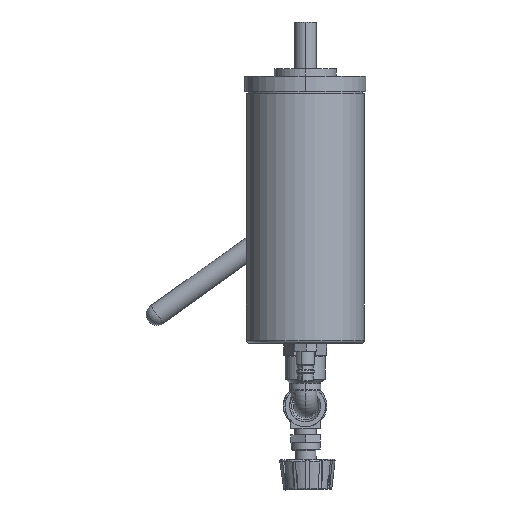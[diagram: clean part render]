
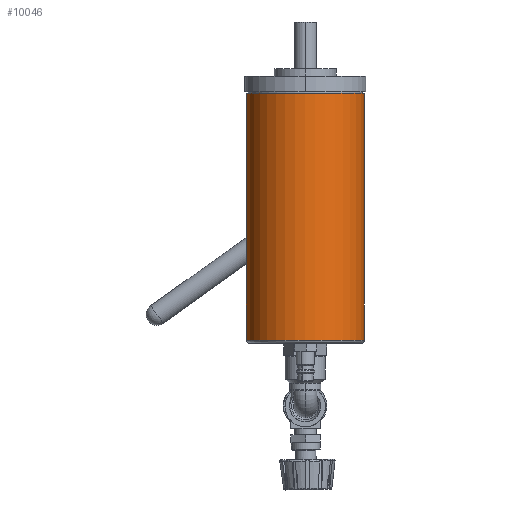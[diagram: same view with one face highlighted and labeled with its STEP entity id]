
A CAD part, left-side view. The second image highlights one B-rep face of the part: STEP entity #10046.
In plain terms, the highlighted cylindrical face has radius 38 mm (diameter 76 mm), a partial arc.
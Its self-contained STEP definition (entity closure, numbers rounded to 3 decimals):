
#388 = VERTEX_POINT ( 'NONE', #15663 ) ;
#506 = CARTESIAN_POINT ( 'NONE',  ( 0., 163., -38. ) ) ;
#519 = VERTEX_POINT ( 'NONE', #1549 ) ;
#753 = DIRECTION ( 'NONE',  ( 0., 0., 1. ) ) ;
#964 = CARTESIAN_POINT ( 'NONE',  ( 0., 165., 0. ) ) ;
#1549 = CARTESIAN_POINT ( 'NONE',  ( 0., 4., 38. ) ) ;
#1738 = DIRECTION ( 'NONE',  ( 0., -1., 0. ) ) ;
#2351 = AXIS2_PLACEMENT_3D ( 'NONE', #964, #17464, #5016 ) ;
#2872 = ORIENTED_EDGE ( 'NONE', *, *, #15192, .F. ) ;
#3136 = FACE_OUTER_BOUND ( 'NONE', #17049, .T. ) ;
#4097 = AXIS2_PLACEMENT_3D ( 'NONE', #6874, #16491, #8258 ) ;
#4247 = ORIENTED_EDGE ( 'NONE', *, *, #17835, .F. ) ;
#4628 = LINE ( 'NONE', #9698, #15195 ) ;
#5016 = DIRECTION ( 'NONE',  ( 0., 0., -1. ) ) ;
#5454 = DIRECTION ( 'NONE',  ( 0., -1., 0. ) ) ;
#5848 = CARTESIAN_POINT ( 'NONE',  ( 0., 165., -38. ) ) ;
#6027 = CIRCLE ( 'NONE', #4097, 38. ) ;
#6128 = VERTEX_POINT ( 'NONE', #506 ) ;
#6874 = CARTESIAN_POINT ( 'NONE',  ( 0., 4., 0. ) ) ;
#6994 = AXIS2_PLACEMENT_3D ( 'NONE', #17243, #9037, #753 ) ;
#8074 = LINE ( 'NONE', #5848, #14544 ) ;
#8258 = DIRECTION ( 'NONE',  ( 0., 0., -1. ) ) ;
#9037 = DIRECTION ( 'NONE',  ( 0., -1., 0. ) ) ;
#9698 = CARTESIAN_POINT ( 'NONE',  ( 0., 165., 38. ) ) ;
#10039 = CYLINDRICAL_SURFACE ( 'NONE', #2351, 38. ) ;
#10046 = ADVANCED_FACE ( 'NONE', ( #3136 ), #10039, .T. ) ;
#10887 = ORIENTED_EDGE ( 'NONE', *, *, #13595, .T. ) ;
#12174 = EDGE_CURVE ( 'NONE', #6128, #15294, #14811, .T. ) ;
#13595 = EDGE_CURVE ( 'NONE', #15294, #519, #4628, .T. ) ;
#14544 = VECTOR ( 'NONE', #1738, 1000. ) ;
#14811 = CIRCLE ( 'NONE', #6994, 38. ) ;
#15192 = EDGE_CURVE ( 'NONE', #388, #519, #6027, .T. ) ;
#15195 = VECTOR ( 'NONE', #5454, 1000. ) ;
#15257 = CARTESIAN_POINT ( 'NONE',  ( 0., 163., 38. ) ) ;
#15294 = VERTEX_POINT ( 'NONE', #15257 ) ;
#15663 = CARTESIAN_POINT ( 'NONE',  ( 0., 4., -38. ) ) ;
#16338 = ORIENTED_EDGE ( 'NONE', *, *, #12174, .T. ) ;
#16491 = DIRECTION ( 'NONE',  ( 0., -1., 0. ) ) ;
#17049 = EDGE_LOOP ( 'NONE', ( #16338, #10887, #2872, #4247 ) ) ;
#17243 = CARTESIAN_POINT ( 'NONE',  ( 0., 163., 0. ) ) ;
#17464 = DIRECTION ( 'NONE',  ( 0., -1., 0. ) ) ;
#17835 = EDGE_CURVE ( 'NONE', #6128, #388, #8074, .T. ) ;
